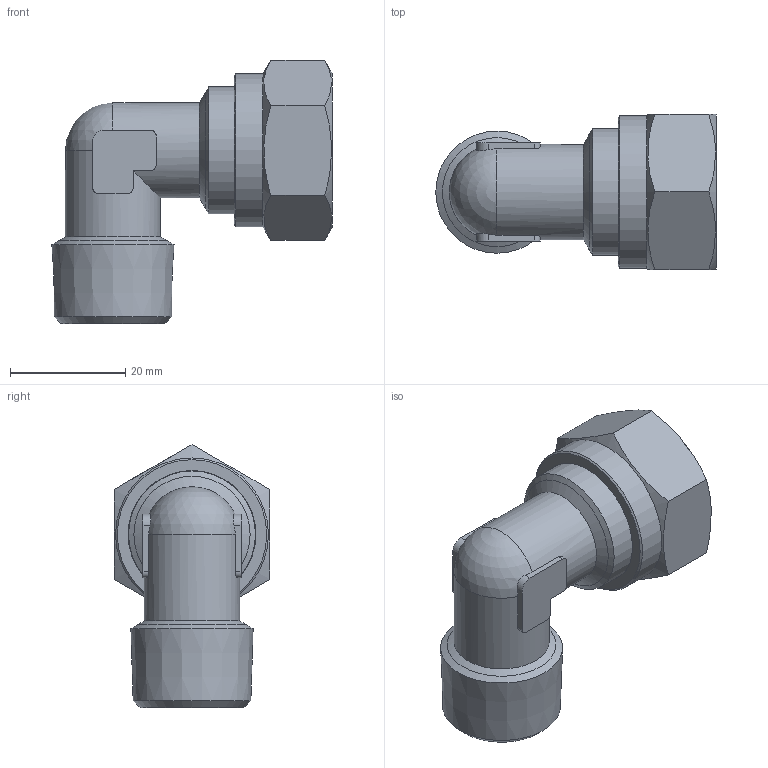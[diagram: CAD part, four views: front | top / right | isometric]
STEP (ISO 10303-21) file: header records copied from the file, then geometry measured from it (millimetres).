
FILE_DESCRIPTION(('Bauteilbeschreibung','HiCAD-Model','HiCAD-STEP-TRANSLATION','Bauteilbeschreibung'),'2;1');
FILE_NAME('B:/ABGLEICH/ZEICHNUNGEN/STEP FÜR INTERNET/STEP/205/92812_205_15_1-2.STP','2011-10-13T14:10:07+00:00',('Konstrukteur'),('Konstrukteur Firma GmbH'),' HiCAD neXt 2008, Step 3.1.1401.2J ','HiCAD neXt 2008','confidential');
FILE_SCHEMA(('AUTOMOTIVE_DESIGN { 1 2 10303 214 0 1 1 1 }'));
Length unit declared in the file: millimetre
Products named in the file (8): A2812_205_15_1_2; A2812; A28120; R 1_2; DIN 13_M22X1_5; A6807; A68070; DIN0130M22X105
Assembly tree (7 placements, depth 3):
  A2812_205_15_1_2
    A2812
    A28120
      R 1_2
      DIN 13_M22X1_5
    A6807
    A68070
      DIN0130M22X105
Bounding box: 48.59 x 27 x 45.59 mm (x, y, z)
Volume: 12938.8 mm3; surface area: 13792.1 mm2
Topology: 5 solids, 5 shells, 78 faces, 197 edges, 125 vertices
Faces by surface type: plane 27, cylinder 26, cone 24, sphere 1
Full cylindrical faces by diameter (mm): 12 x1, 12.5 x1, 15 x3, 16.5 x2, 20.16 x4, 22 x3, 26.5 x1
Entity records: 4912 total; most frequent: CARTESIAN_POINT 2463, DIRECTION 358, ORIENTED_EDGE 290, AXIS2_PLACEMENT_3D 155, EDGE_CURVE 145, COLOUR_RGB 129, PRESENTATION_STYLE_ASSIGNMENT 129, CURVE_STYLE 124
